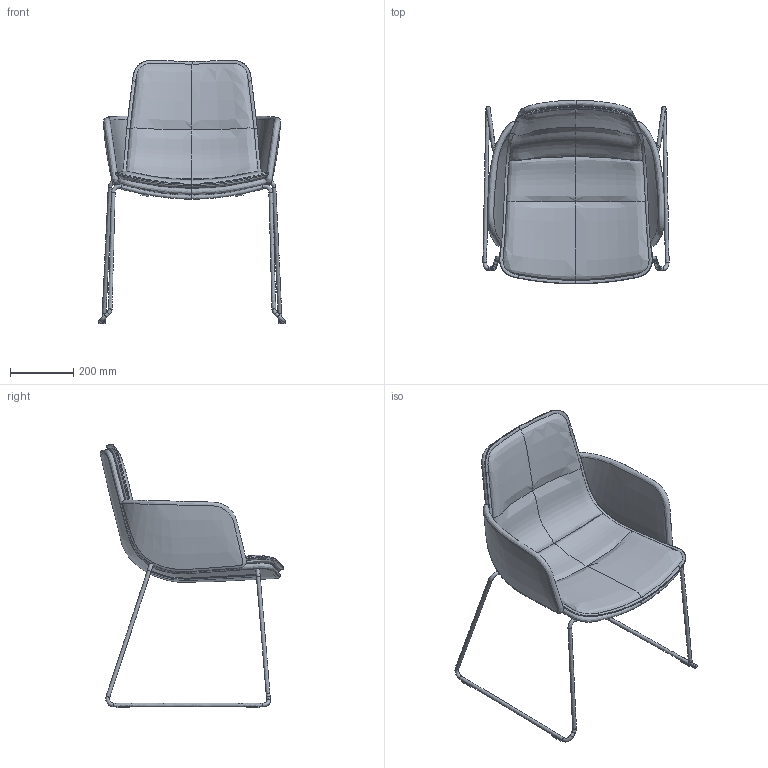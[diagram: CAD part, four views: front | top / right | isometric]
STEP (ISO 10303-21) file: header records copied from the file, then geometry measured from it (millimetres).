
FILE_DESCRIPTION(/* description */ (''),/* implementation_level */ '2;1');
FILE_NAME(/* name */ 'Edge ED 4202-07',/* time_stamp */ '2020-04-16T23:54:00+02:00',/* author */ (''),/* organization */ (''),/* preprocessor_version */ 'ST-DEVELOPER v16.5',/* originating_system */ '',/* authorisation */ '');
FILE_SCHEMA (('AUTOMOTIVE_DESIGN'));
Length unit declared in the file: millimetre
Products named in the file (1): Document
Bounding box: 591.15 x 582.14 x 835.52 mm (x, y, z)
Volume: 10230662.4 mm3; surface area: 1691275.2 mm2
Topology: 10 solids, 11 shells, 106 faces, 219 edges, 135 vertices
Faces by surface type: bspline 62, plane 44
Entity records: 12108 total; most frequent: CARTESIAN_POINT 10556, ORIENTED_EDGE 428, EDGE_CURVE 216, B_SPLINE_CURVE_WITH_KNOTS 175, VERTEX_POINT 129, ADVANCED_FACE 106, FACE_OUTER_BOUND 106, EDGE_LOOP 106
